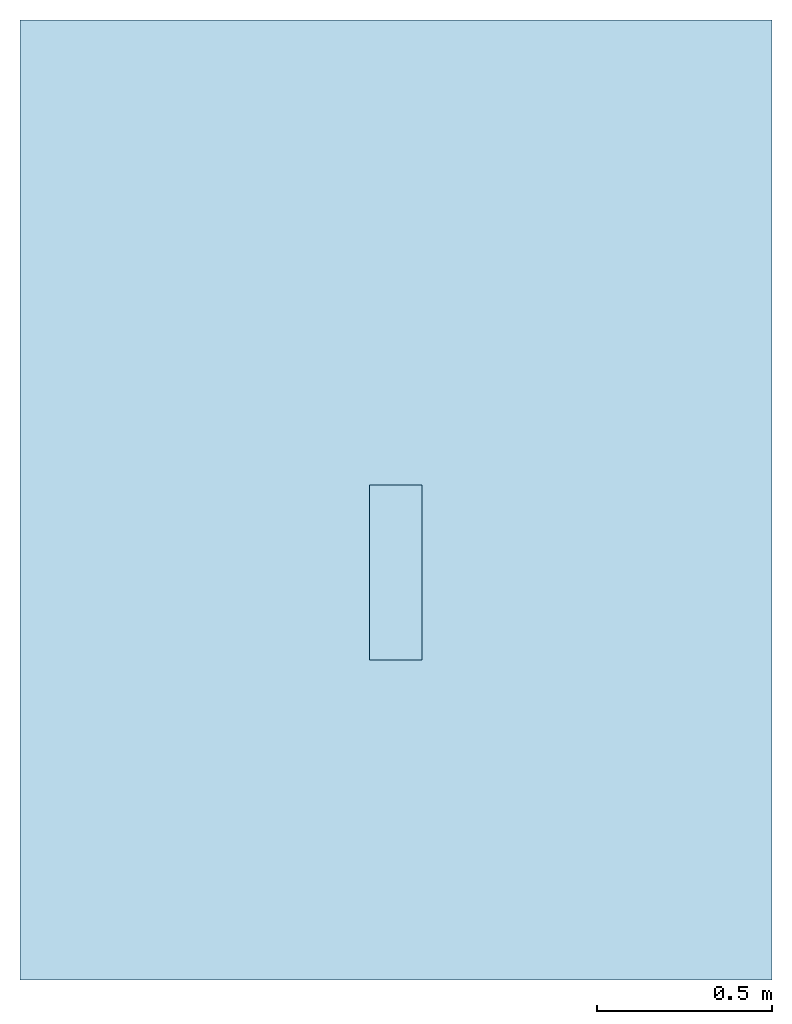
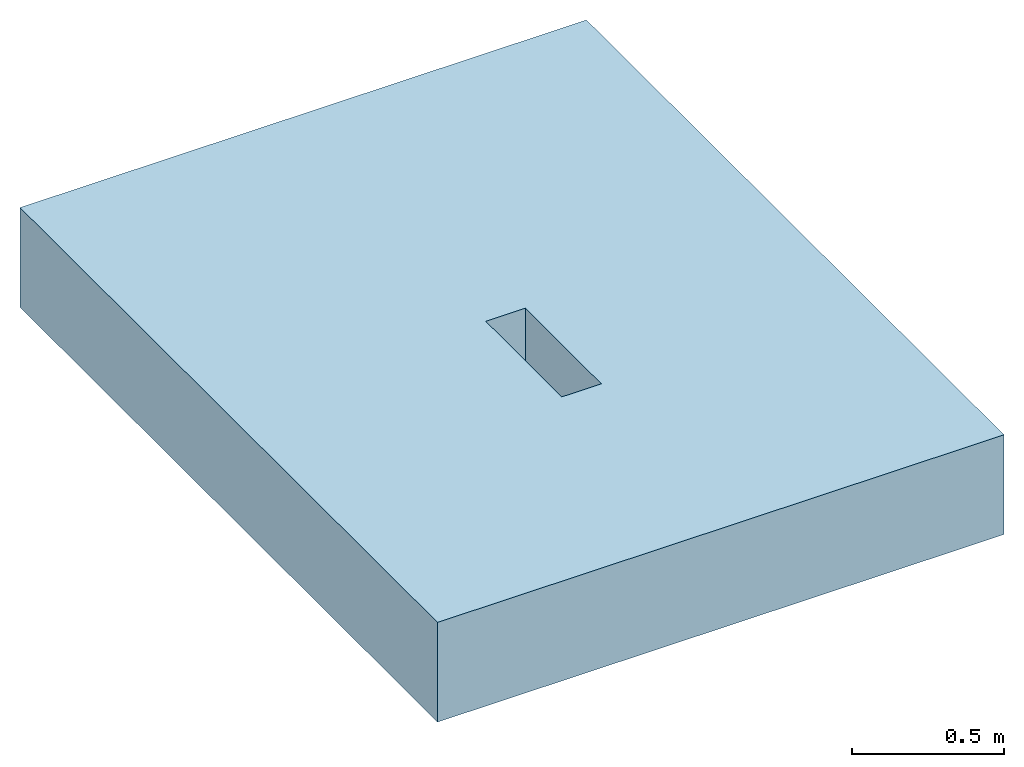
# One storey: 1 slab, 4 openings.
"""IFC2X3 building model written with IfcOpenShell, lengths in millimetres."""

import ifcopenshell
import ifcopenshell.guid

model = None  # the IFC model being written
_history = None  # IfcOwnerHistory: only IFC2X3 demands one
_inside = {}  # id of a spatial element -> (the spatial element, [elements in it])
_under = {}  # id of a project, library or spatial element -> (it, [spatial elements below it])
_declared = {}  # id of a project -> (the project, [libraries it declares])
_typed = {}  # id of a type object -> (the type object, [elements of that type])
_made_of = {}  # id of a material, layer set ... -> (it, [elements and type objects made of it])


def new_model(schema):
    """Start an empty IFC model of exactly this schema.

    Asked for "IFC4X3", IfcOpenShell would pick the latest addendum, in which some entities
    have other attributes; the version numbers below select the first issue.
    IFC2X3 requires an IfcOwnerHistory on every rooted entity: one is made here for all.
    """
    global model, _history
    if schema == "IFC4X3":
        model = ifcopenshell.file(schema_version=(4, 3, 0, 0))
    else:
        model = ifcopenshell.file(schema=schema)
    _inside.clear()
    _under.clear()
    _declared.clear()
    _typed.clear()
    _made_of.clear()
    _history = None
    if model.schema == "IFC2X3":
        org = make("IfcOrganization", Name="unknown")
        user = make(
            "IfcPersonAndOrganization",
            ThePerson=make("IfcPerson", FamilyName="unknown"),
            TheOrganization=org,
        )
        app = make(
            "IfcApplication",
            ApplicationDeveloper=org,
            Version="unknown",
            ApplicationFullName="unknown",
            ApplicationIdentifier="unknown",
        )
        _history = make(
            "IfcOwnerHistory",
            OwningUser=user,
            OwningApplication=app,
            ChangeAction="ADDED",
            CreationDate=0,
        )
    return model


def make(cls, **values):
    """One entity of the class cls with the attributes given. An attribute that is None is left unset."""
    return model.create_entity(
        cls, **{name: value for name, value in values.items() if value is not None}
    )


def entity(cls, *values):
    """Any entity or typed value of the class cls, its attributes in the order of the schema. None: left unset."""
    e = model.create_entity(cls)
    for i, value in enumerate(values):
        if value is not None:
            e[i] = value
    return e


def rooted(cls, **values):
    """An entity with a GlobalId (a new one), such as an element, a storey or a relation."""
    return make(cls, GlobalId=ifcopenshell.guid.new(), OwnerHistory=_history, **values)


def si_unit(unit_type, name, prefix=None):
    """IfcSIUnit, for example si_unit("LENGTHUNIT", "METRE", prefix="MILLI")."""
    return make("IfcSIUnit", UnitType=unit_type, Prefix=prefix, Name=name)


def converted_unit(unit_type, name, factor, base, dimensions=None, offset=None):
    """IfcConversionBasedUnit, such as the inch: factor (a typed value) times the base unit."""
    return make(
        "IfcConversionBasedUnit"
        if offset is None
        else "IfcConversionBasedUnitWithOffset",
        ConversionOffset=offset,
        Dimensions=None
        if dimensions is None
        else entity("IfcDimensionalExponents", *dimensions),
        UnitType=unit_type,
        Name=name,
        ConversionFactor=make(
            "IfcMeasureWithUnit", ValueComponent=factor, UnitComponent=base
        ),
    )


def assignment(units):
    """IfcUnitAssignment: the units of a project."""
    return None if units is None else make("IfcUnitAssignment", Units=units)


def point(xyz):
    """IfcCartesianPoint."""
    return None if xyz is None else make("IfcCartesianPoint", Coordinates=xyz)


def direction(xyz):
    """IfcDirection."""
    return None if xyz is None else make("IfcDirection", DirectionRatios=xyz)


def frame(location, z_axis=None, x_axis=None):
    """IfcAxis2Placement3D, a coordinate frame: its origin and axes. An axis left out is left unset."""
    return make(
        "IfcAxis2Placement3D",
        Location=point(location),
        Axis=direction(z_axis),
        RefDirection=direction(x_axis),
    )


def frame_2d(location, x_axis=None):
    """IfcAxis2Placement2D, a coordinate frame in the plane: its origin and x axis."""
    return make(
        "IfcAxis2Placement2D", Location=point(location), RefDirection=direction(x_axis)
    )


def origin():
    """The frame at (0, 0, 0) with its axes left unset."""
    return frame((0.0, 0.0, 0.0))


def origin_2d_with_axis():
    """The frame at (0, 0) in the plane with the x axis (1, 0) written out."""
    return frame_2d((0.0, 0.0), x_axis=(1.0, 0.0))


def place(relative_to, where):
    """IfcLocalPlacement: puts the frame where relative to a parent placement (None: the world)."""
    return make(
        "IfcLocalPlacement", PlacementRelTo=relative_to, RelativePlacement=where
    )


def context(
    kind, dimensions, precision=None, world=None, true_north=None, identifier=None
):
    """IfcGeometricRepresentationContext, for example the 3D "Model" context."""
    return make(
        "IfcGeometricRepresentationContext",
        ContextIdentifier=identifier,
        ContextType=kind,
        CoordinateSpaceDimension=dimensions,
        Precision=precision,
        WorldCoordinateSystem=world,
        TrueNorth=true_north,
    )


def subcontext(parent, identifier, kind, view, scale=None):
    """IfcGeometricRepresentationSubContext, for example "Body" below "Model"."""
    return make(
        "IfcGeometricRepresentationSubContext",
        ContextIdentifier=identifier,
        ContextType=kind,
        ParentContext=parent,
        TargetScale=scale,
        TargetView=view,
    )


def project(units=None, contexts=None):
    """IfcProject with its units and contexts."""
    return rooted(
        "IfcProject",
        Name="project",
        RepresentationContexts=contexts,
        UnitsInContext=assignment(units),
    )


def spatial(cls, under=None, at=None, **own):
    """A site, building, storey or space (cls), placed at a placement, below another one or the project."""
    s = rooted(cls, ObjectPlacement=at, **own)
    if under is not None:
        _under.setdefault(under.id(), (under, []))[1].append(s)
    return s


def polyline(points):
    """IfcPolyline through the points."""
    return make("IfcPolyline", Points=[point(p) for p in points])


def profile(cls, at=None, kind="AREA", **sizes):
    """A parametric profile (cls). Its sizes go by their IFC names, for example OverallWidth=200.0."""
    return make(cls, ProfileType=kind, Position=at, **sizes)


def rectangle(**sizes):
    """IfcRectangleProfileDef."""
    return profile("IfcRectangleProfileDef", **sizes)


def outline(outer, holes=None, kind="AREA"):
    """IfcArbitraryClosedProfileDef: a profile drawn as a closed curve; with holes, ...WithVoids."""
    if holes is None:
        return make("IfcArbitraryClosedProfileDef", ProfileType=kind, OuterCurve=outer)
    return make(
        "IfcArbitraryProfileDefWithVoids",
        ProfileType=kind,
        OuterCurve=outer,
        InnerCurves=holes,
    )


def extrude(swept, where, along, depth):
    """IfcExtrudedAreaSolid: the profile swept, set in the frame where, extruded along a direction by depth."""
    return make(
        "IfcExtrudedAreaSolid",
        SweptArea=swept,
        Position=where,
        ExtrudedDirection=direction(along),
        Depth=depth,
    )


def shape(context_of_items, identifier, shape_type, items):
    """IfcShapeRepresentation: the items that make up one representation, for example the "Body"."""
    return make(
        "IfcShapeRepresentation",
        ContextOfItems=context_of_items,
        RepresentationIdentifier=identifier,
        RepresentationType=shape_type,
        Items=items,
    )


def material(Name=None, Category=None):
    """IfcMaterial."""
    return make("IfcMaterial", Name=Name, Category=Category)


def layer(
    of_material, thickness, ventilated=None, Name=None, Category=None, Priority=None
):
    """IfcMaterialLayer: one layer of a wall or slab, of a material (None: an air gap)."""
    return make(
        "IfcMaterialLayer",
        Material=of_material,
        LayerThickness=thickness,
        IsVentilated=ventilated,
        Name=Name,
        Category=Category,
        Priority=Priority,
    )


def layer_set(layers, Name=None):
    """IfcMaterialLayerSet."""
    return make("IfcMaterialLayerSet", MaterialLayers=layers, LayerSetName=Name)


def layer_usage(for_layer_set, set_direction, sense, offset, extent=None):
    """IfcMaterialLayerSetUsage: how a layer set lies in its element."""
    return make(
        "IfcMaterialLayerSetUsage",
        ForLayerSet=for_layer_set,
        LayerSetDirection=set_direction,
        DirectionSense=sense,
        OffsetFromReferenceLine=offset,
        ReferenceExtent=extent,
    )


def made_of(thing, what):
    """Note that an element or type object is made of a material, layer set ...; save() writes the relation."""
    if what is not None:
        _made_of.setdefault(what.id(), (what, []))[1].append(thing)
    return thing


def element(
    cls,
    number,
    at=None,
    inside=None,
    cuts=None,
    type_object=None,
    material=None,
    context=None,
    identifier="Body",
    shape_type=None,
    held_by="IfcProductDefinitionShape",
    body=None,
    shapes=None,
    **own,
):
    """One element of the class cls, such as IfcWall. Its Tag is "e" and its number.

    at: its placement. inside: the storey or other place that contains it. cuts: it is an
    opening in that element (IfcRelVoidsElement). A single representation is given by context,
    identifier, shape_type and body (its items); several are given by shapes. held_by: the class
    of the entity that holds the representations. save() writes the other relations.
    """
    e = rooted(cls, Tag="e%d" % number, ObjectPlacement=at, **own)
    if body is not None:
        shapes = [shape(context, identifier, shape_type, body)]
    if shapes is not None:
        e.Representation = make(held_by, Representations=shapes)
    if inside is not None:
        _inside.setdefault(inside.id(), (inside, []))[1].append(e)
    if cuts is not None:
        rooted(
            "IfcRelVoidsElement", RelatingBuildingElement=cuts, RelatedOpeningElement=e
        )
    if type_object is not None:
        _typed.setdefault(type_object.id(), (type_object, []))[1].append(e)
    return made_of(e, material)


def aggregate(whole, parts):
    """IfcRelAggregates: a whole, such as a stair, and the parts it consists of."""
    return rooted("IfcRelAggregates", RelatingObject=whole, RelatedObjects=parts)


def save(model, path):
    """Write the relations noted so far, then the file.

    IfcRelAggregates (storeys below a building ...), IfcRelContainedInSpatialStructure (elements
    in a storey), IfcRelDefinesByType, IfcRelAssociatesMaterial and IfcRelDeclares: one each for
    every whole, place, type object, material and project.
    """
    for whole, parts in _under.values():
        aggregate(whole, parts)
    for where, things in _inside.values():
        rooted(
            "IfcRelContainedInSpatialStructure",
            RelatedElements=things,
            RelatingStructure=where,
        )
    for kind, things in _typed.values():
        rooted("IfcRelDefinesByType", RelatedObjects=things, RelatingType=kind)
    for what, things in _made_of.values():
        rooted("IfcRelAssociatesMaterial", RelatedObjects=things, RelatingMaterial=what)
    for by, libraries in _declared.values():
        rooted("IfcRelDeclares", RelatingContext=by, RelatedDefinitions=libraries)
    model.write(path)


model = new_model("IFC2X3")

# Units and contexts
model_context = context("Model", 3, precision=1e-06, world=origin(), true_north=direction((2.0, 6.12303176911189e-17, 1.0)))
context_of_model = context(None, 3, precision=1e-06, world=origin(), true_north=direction((2.0, 6.12303176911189e-17, 1.0)))
body_context = subcontext(model_context, "Body", "Model", "MODEL_VIEW")
ifc_project = project(units=[si_unit("LENGTHUNIT", "METRE", prefix="MILLI"), si_unit("AREAUNIT", "SQUARE_METRE", prefix="MILLI"), si_unit("VOLUMEUNIT", "CUBIC_METRE", prefix="MILLI"), converted_unit("PLANEANGLEUNIT", "DEGREE", entity("IfcRatioMeasure", 0.0174532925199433), si_unit("PLANEANGLEUNIT", "RADIAN"), dimensions=[0, 0, 0, 0, 0, 0, 0]), si_unit("TIMEUNIT", "SECOND")], contexts=[model_context, context_of_model])

# Site, building, storey
site_placement = place(None, origin())
site = spatial("IfcSite", under=ifc_project, at=site_placement, Name="Default", CompositionType="ELEMENT")
building_placement = place(site_placement, origin())
building = spatial("IfcBuilding", under=site, at=building_placement, CompositionType="ELEMENT")
storey_placement = place(building_placement, origin())
storey = spatial("IfcBuildingStorey", under=building, at=storey_placement, Name="Level 1", CompositionType="ELEMENT", Elevation=0.0)

# Slab, openings
ifc_material = material(Name="Earth")
ifc_layer = layer(ifc_material, 400.0)
ifc_layer_set = layer_set([ifc_layer], Name="Floor:Generic Floor - 400mm")
ifc_layer_usage = layer_usage(ifc_layer_set, "AXIS3", "POSITIVE", 0.0)
slab_placement = place(storey_placement, frame((-6757.99544306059, -11162.1166238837, -400.0)))
slab = element("IfcSlab", 1, at=slab_placement, inside=storey, material=ifc_layer_usage, Name="Floor:Generic Floor - 400mm", ObjectType="Floor:Generic Floor - 400mm", PredefinedType="FLOOR", context=body_context, shape_type="SweptSolid", body=[
    extrude(rectangle(XDim=2745.0, YDim=2150.0, at=frame_2d((0.0, 0.0), x_axis=(0.0, 1.0))), frame((1075.0, 1372.5, 400.0), z_axis=(0.0, 0.0, -1.0), x_axis=(-1.0, 0.0, 0.0)), (0.0, 0.0, 1.0), 400.0),
])
opening_1_placement = place(slab_placement, origin())
element("IfcOpeningElement", 2, at=opening_1_placement, cuts=slab, ObjectType="Opening", context=body_context, shape_type="SweptSolid", body=[
    extrude(outline(polyline([(65.8692335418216, -8.50441207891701), (113.585231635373, -8.504412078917), (-39.6708157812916, 115.404016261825), (-132.09264862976, 1.09214105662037), (-7.69100076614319, -99.4873331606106), (65.8692335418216, -8.50441207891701)])), frame((994.900000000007, 1029.8, -1996.59390446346), z_axis=(1.0, 0.0, 0.0), x_axis=(0.0, -0.628719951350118, 0.777631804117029)), (0.0, 0.0, 1.0), 160.2),
])
opening_2_placement = place(slab_placement, origin())
element("IfcOpeningElement", 3, at=opening_2_placement, cuts=slab, ObjectType="Opening", context=body_context, shape_type="SweptSolid", body=[
    extrude(outline(polyline([(68.0111245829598, -6.22272762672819), (115.645146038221, -6.22272762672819), (-37.6614234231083, 118.079896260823), (-135.280726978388, -2.31724479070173), (-10.7141202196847, -103.317196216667), (68.0111245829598, -6.22272762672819)])), frame((1000.0, 1008.0, -1496.3793229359), z_axis=(1.0, 0.0, 0.0), x_axis=(0.0, -0.629801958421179, 0.776755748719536)), (0.0, 0.0, 1.0), 1.99999999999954),
])
opening_3_placement = place(slab_placement, origin())
element("IfcOpeningElement", 4, at=opening_3_placement, cuts=slab, ObjectType="Opening", context=body_context, shape_type="SweptSolid", body=[
    extrude(outline(polyline([(-243.499999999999, -75.0), (243.499999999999, -75.0), (250.0, 75.0), (-250.0, 75.0), (-243.499999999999, -75.0)])), frame((1075.0, 1165.0, 4965.0), z_axis=(0.0, 0.0, 1.0), x_axis=(0.0, -1.0, 0.0)), (0.0, 0.0, 1.0), 4.99999999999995),
])
opening_4_placement = place(slab_placement, origin())
element("IfcOpeningElement", 5, at=opening_4_placement, cuts=slab, ObjectType="Opening", context=body_context, shape_type="SweptSolid", body=[
    extrude(rectangle(XDim=149.999999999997, YDim=500.0, at=origin_2d_with_axis()), frame((1075.0, 1165.0, 45.0), z_axis=(0.0, 0.0, 1.0), x_axis=(-1.0, 0.0, 0.0)), (0.0, 0.0, 1.0), 355.0),
])

save(model, "model.ifc")
